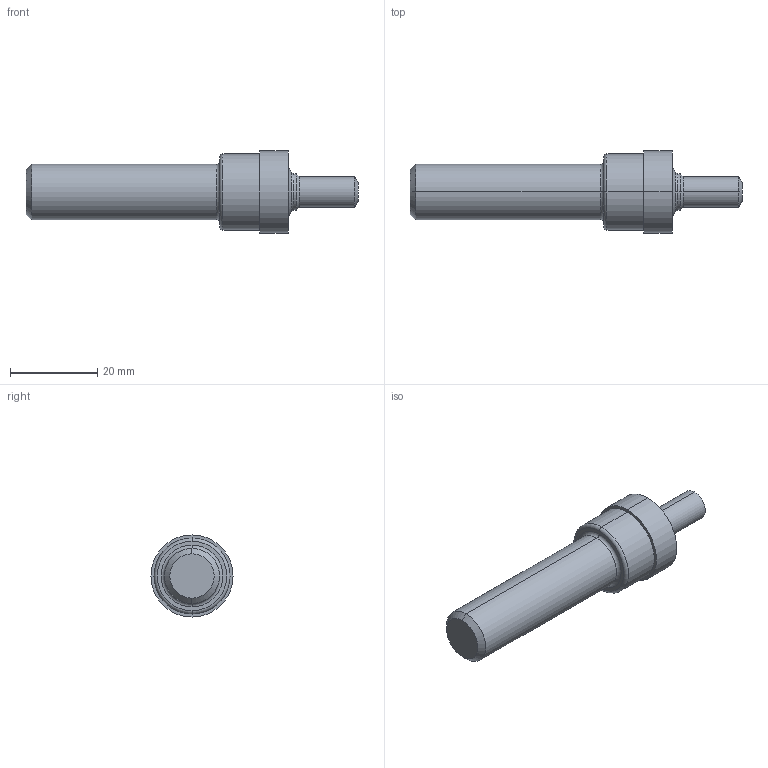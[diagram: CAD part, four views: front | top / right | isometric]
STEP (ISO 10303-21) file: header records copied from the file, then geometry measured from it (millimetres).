
FILE_DESCRIPTION (( 'STEP AP203' ), '1' );
FILE_NAME ('AS5202-02R.STEP', '2024-06-19T18:46:58', ( '' ), ( '' ), 'SwSTEP 2.0', 'SolidWorks 2022', '' );
FILE_SCHEMA (( 'CONFIG_CONTROL_DESIGN' ));
Length unit declared in the file: inch
Products named in the file (1): AS5202-02R
Bounding box: 76.2 x 18.85 x 18.85 mm (x, y, z)
Volume: 10289.2 mm3; surface area: 3481.5 mm2
Topology: 1 solids, 1 shells, 29 faces, 56 edges, 32 vertices
Faces by surface type: cylinder 10, cone 8, torus 6, plane 5
Entity records: 819 total; most frequent: DIRECTION 154, CARTESIAN_POINT 118, ORIENTED_EDGE 112, AXIS2_PLACEMENT_3D 68, EDGE_CURVE 56, CIRCLE 38, VERTEX_POINT 32, EDGE_LOOP 32
